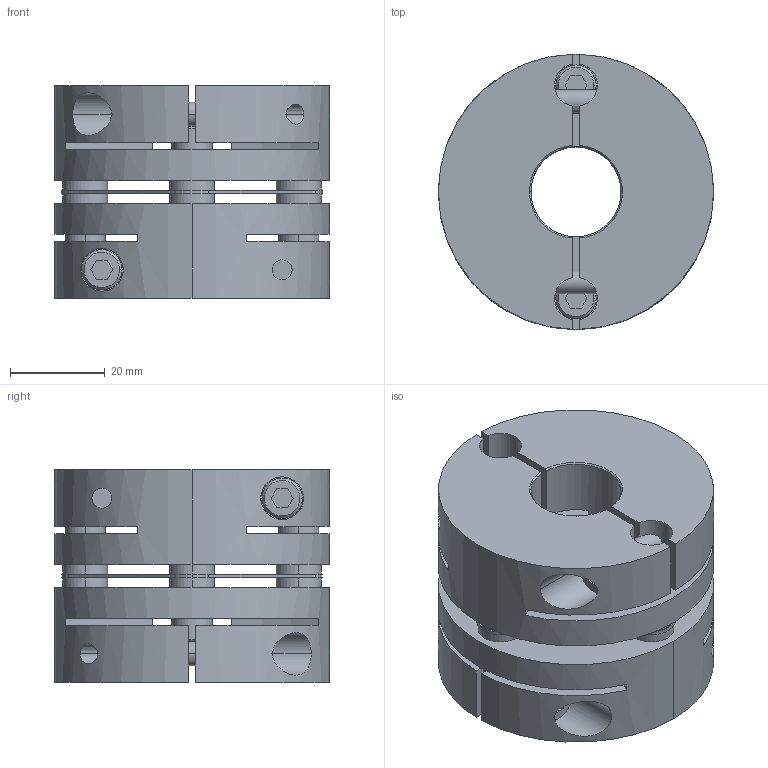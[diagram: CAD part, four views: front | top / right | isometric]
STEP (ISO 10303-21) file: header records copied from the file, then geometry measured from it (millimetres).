
FILE_DESCRIPTION((''),'2;1');
FILE_NAME('LAS-58C-19×19.stp','2011-08-09T15:34:22',(''),(''),'AutoCAD STEP 2000i','AutoCAD 2000i',', , ');
FILE_SCHEMA(('CONFIG_CONTROL_DESIGN'));
Length unit declared in the file: millimetre
Products named in the file (7): LAS-58C-19×19; 忣兜1; LA-5802-D19-1; LA-5802-D19; LA-5802-D12-1; LA-5802-D12; LAS58-ITA
Assembly tree (6 placements, depth 2):
  LAS-58C-19×19
    忣兜1
    LA-5802-D19-1
    LA-5802-D19
    LA-5802-D12-1
    LA-5802-D12
    LAS58-ITA
Bounding box: 58 x 58 x 44.8 mm (x, y, z)
Volume: 86017.1 mm3; surface area: 32791.8 mm2
Topology: 1 solids, 1 shells, 240 faces, 636 edges, 416 vertices
Faces by surface type: plane 116, cylinder 96, cone 28
Entity records: 8567 total; most frequent: CARTESIAN_POINT 2199, DIRECTION 1338, ORIENTED_EDGE 1280, EDGE_CURVE 640, AXIS2_PLACEMENT_3D 491, VERTEX_POINT 416, VECTOR 356, LINE 356
